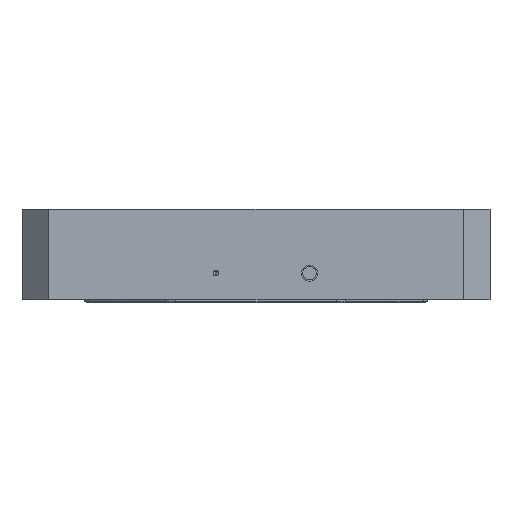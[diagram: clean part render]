
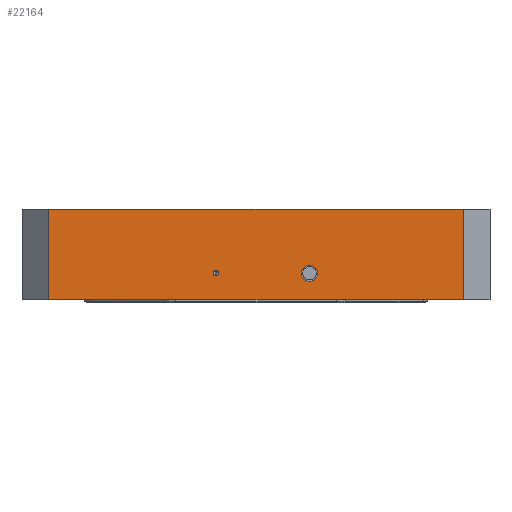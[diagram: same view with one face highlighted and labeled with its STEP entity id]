
A CAD part, left-side view. The second image highlights one B-rep face of the part: STEP entity #22164.
In plain terms, the highlighted planar face has unit normal (-1, 0, 0).
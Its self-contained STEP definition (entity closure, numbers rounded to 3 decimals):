
#447 = DIRECTION ( 'NONE',  ( -1., 0., 0. ) ) ;
#642 = CARTESIAN_POINT ( 'NONE',  ( -94.099, 11.9, 141.975 ) ) ;
#1526 = AXIS2_PLACEMENT_3D ( 'NONE', #20415, #20224, #2715 ) ;
#2715 = DIRECTION ( 'NONE',  ( 0., -1., 0. ) ) ;
#2916 = CARTESIAN_POINT ( 'NONE',  ( -94.099, -80.6, 133. ) ) ;
#3012 = LINE ( 'NONE', #3396, #7563 ) ;
#3396 = CARTESIAN_POINT ( 'NONE',  ( -94.099, -90.6, 133. ) ) ;
#3727 = VERTEX_POINT ( 'NONE', #2916 ) ;
#5232 = FACE_BOUND ( 'NONE', #9209, .T. ) ;
#5609 = CIRCLE ( 'NONE', #9913, 1.025 ) ;
#5778 = DIRECTION ( 'NONE',  ( -1., 0., 0. ) ) ;
#6723 = CARTESIAN_POINT ( 'NONE',  ( -94.099, 84.4, 164.5 ) ) ;
#7287 = ORIENTED_EDGE ( 'NONE', *, *, #17415, .F. ) ;
#7563 = VECTOR ( 'NONE', #32870, 1000. ) ;
#7960 = CARTESIAN_POINT ( 'NONE',  ( -94.099, -80.6, 164.5 ) ) ;
#8001 = CARTESIAN_POINT ( 'NONE',  ( -94.099, -26.1, 143. ) ) ;
#8156 = ORIENTED_EDGE ( 'NONE', *, *, #33685, .F. ) ;
#8316 = FACE_OUTER_BOUND ( 'NONE', #19031, .T. ) ;
#9209 = EDGE_LOOP ( 'NONE', ( #9334, #8156 ) ) ;
#9334 = ORIENTED_EDGE ( 'NONE', *, *, #26044, .F. ) ;
#9796 = EDGE_CURVE ( 'NONE', #24938, #18033, #37679, .T. ) ;
#9836 = CIRCLE ( 'NONE', #35082, 3. ) ;
#9913 = AXIS2_PLACEMENT_3D ( 'NONE', #32202, #20071, #17357 ) ;
#10734 = CIRCLE ( 'NONE', #1526, 3. ) ;
#11188 = EDGE_LOOP ( 'NONE', ( #27515, #7287 ) ) ;
#11276 = CARTESIAN_POINT ( 'NONE',  ( -94.099, -50.6, 167. ) ) ;
#11287 = VECTOR ( 'NONE', #23032, 1000. ) ;
#12335 = CIRCLE ( 'NONE', #13546, 1.025 ) ;
#12519 = CARTESIAN_POINT ( 'NONE',  ( -94.099, 74.4, 167. ) ) ;
#13377 = EDGE_CURVE ( 'NONE', #3727, #30270, #3012, .T. ) ;
#13546 = AXIS2_PLACEMENT_3D ( 'NONE', #17691, #5778, #15002 ) ;
#13936 = VERTEX_POINT ( 'NONE', #20493 ) ;
#14698 = DIRECTION ( 'NONE',  ( 0., -1., 0. ) ) ;
#14823 = DIRECTION ( 'NONE',  ( 1., 0., 0. ) ) ;
#15002 = DIRECTION ( 'NONE',  ( 0., 0., 1. ) ) ;
#15806 = VERTEX_POINT ( 'NONE', #27974 ) ;
#16965 = FACE_BOUND ( 'NONE', #11188, .T. ) ;
#17357 = DIRECTION ( 'NONE',  ( 0., 0., 1. ) ) ;
#17415 = EDGE_CURVE ( 'NONE', #13936, #30006, #9836, .T. ) ;
#17691 = CARTESIAN_POINT ( 'NONE',  ( -94.099, 11.9, 143. ) ) ;
#18033 = VERTEX_POINT ( 'NONE', #33847 ) ;
#18700 = ORIENTED_EDGE ( 'NONE', *, *, #29478, .T. ) ;
#19031 = EDGE_LOOP ( 'NONE', ( #23086, #18700, #29003, #24396 ) ) ;
#19596 = LINE ( 'NONE', #34267, #22524 ) ;
#19950 = VECTOR ( 'NONE', #25294, 1000. ) ;
#20050 = PLANE ( 'NONE',  #31857 ) ;
#20071 = DIRECTION ( 'NONE',  ( -1., 0., 0. ) ) ;
#20224 = DIRECTION ( 'NONE',  ( -1., 0., 0. ) ) ;
#20415 = CARTESIAN_POINT ( 'NONE',  ( -94.099, -23.1, 143. ) ) ;
#20493 = CARTESIAN_POINT ( 'NONE',  ( -94.099, -20.1, 143. ) ) ;
#21740 = DIRECTION ( 'NONE',  ( 0., 0., -1. ) ) ;
#22164 = ADVANCED_FACE ( 'NONE', ( #5232, #16965, #8316 ), #20050, .F. ) ;
#22524 = VECTOR ( 'NONE', #21740, 1000. ) ;
#23032 = DIRECTION ( 'NONE',  ( 0., -1., 0. ) ) ;
#23086 = ORIENTED_EDGE ( 'NONE', *, *, #9796, .F. ) ;
#24396 = ORIENTED_EDGE ( 'NONE', *, *, #36555, .T. ) ;
#24938 = VERTEX_POINT ( 'NONE', #12519 ) ;
#25294 = DIRECTION ( 'NONE',  ( 0., 0., 1. ) ) ;
#26044 = EDGE_CURVE ( 'NONE', #15806, #35142, #5609, .T. ) ;
#27515 = ORIENTED_EDGE ( 'NONE', *, *, #37077, .F. ) ;
#27974 = CARTESIAN_POINT ( 'NONE',  ( -94.099, 11.9, 144.025 ) ) ;
#29003 = ORIENTED_EDGE ( 'NONE', *, *, #13377, .F. ) ;
#29478 = EDGE_CURVE ( 'NONE', #24938, #30270, #19596, .T. ) ;
#30006 = VERTEX_POINT ( 'NONE', #8001 ) ;
#30270 = VERTEX_POINT ( 'NONE', #33774 ) ;
#31857 = AXIS2_PLACEMENT_3D ( 'NONE', #6723, #14823, #35474 ) ;
#32202 = CARTESIAN_POINT ( 'NONE',  ( -94.099, 11.9, 143. ) ) ;
#32870 = DIRECTION ( 'NONE',  ( 0., 1., 0. ) ) ;
#33685 = EDGE_CURVE ( 'NONE', #35142, #15806, #12335, .T. ) ;
#33774 = CARTESIAN_POINT ( 'NONE',  ( -94.099, 74.4, 133. ) ) ;
#33847 = CARTESIAN_POINT ( 'NONE',  ( -94.099, -80.6, 167. ) ) ;
#34267 = CARTESIAN_POINT ( 'NONE',  ( -94.099, 74.4, 164.5 ) ) ;
#34358 = LINE ( 'NONE', #7960, #19950 ) ;
#35082 = AXIS2_PLACEMENT_3D ( 'NONE', #35345, #447, #14698 ) ;
#35142 = VERTEX_POINT ( 'NONE', #642 ) ;
#35345 = CARTESIAN_POINT ( 'NONE',  ( -94.099, -23.1, 143. ) ) ;
#35474 = DIRECTION ( 'NONE',  ( 0., 1., 0. ) ) ;
#36555 = EDGE_CURVE ( 'NONE', #3727, #18033, #34358, .T. ) ;
#37077 = EDGE_CURVE ( 'NONE', #30006, #13936, #10734, .T. ) ;
#37679 = LINE ( 'NONE', #11276, #11287 ) ;
